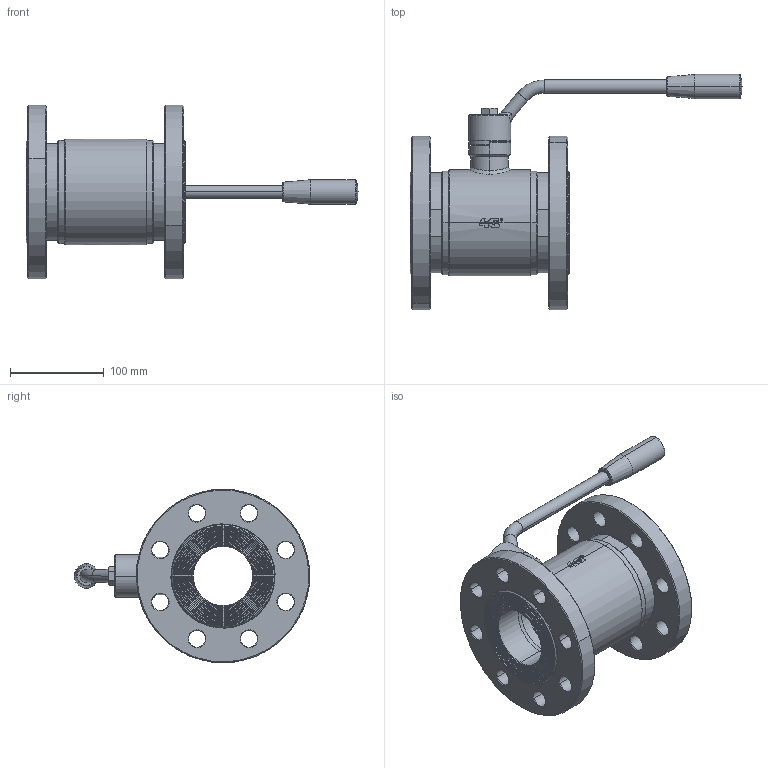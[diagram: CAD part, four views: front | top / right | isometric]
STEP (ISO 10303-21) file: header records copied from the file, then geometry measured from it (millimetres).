
FILE_DESCRIPTION((''),'2;1');
FILE_NAME('13015264410_SW0001','2026-04-29T11:11:00',('tecnico2'),('CDM Tecnoconsulting'),'CREO PARAMETRIC BY PTC INC, 2024063','CREO PARAMETRIC BY PTC INC, 2024063','');
FILE_SCHEMA(('CONFIG_CONTROL_DESIGN'));
Products named in the file (1): 13015264410_SW0001
Bounding box: 354 x 250.91 x 184.82 mm (x, y, z)
Volume: 1836431.3 mm3; surface area: 281106.2 mm2
Topology: 1 solids, 1 shells, 1000 faces, 2633 edges, 1662 vertices
Faces by surface type: plane 395, cylinder 181, cone 165, extrusion 109, torus 76, bspline 60, sphere 14
Entity records: 49013 total; most frequent: CARTESIAN_POINT 25050, ORIENTED_EDGE 5230, DIRECTION 4528, EDGE_CURVE 2615, VERTEX_POINT 1662, AXIS2_PLACEMENT_3D 1592, VECTOR 1344, LINE 1235
